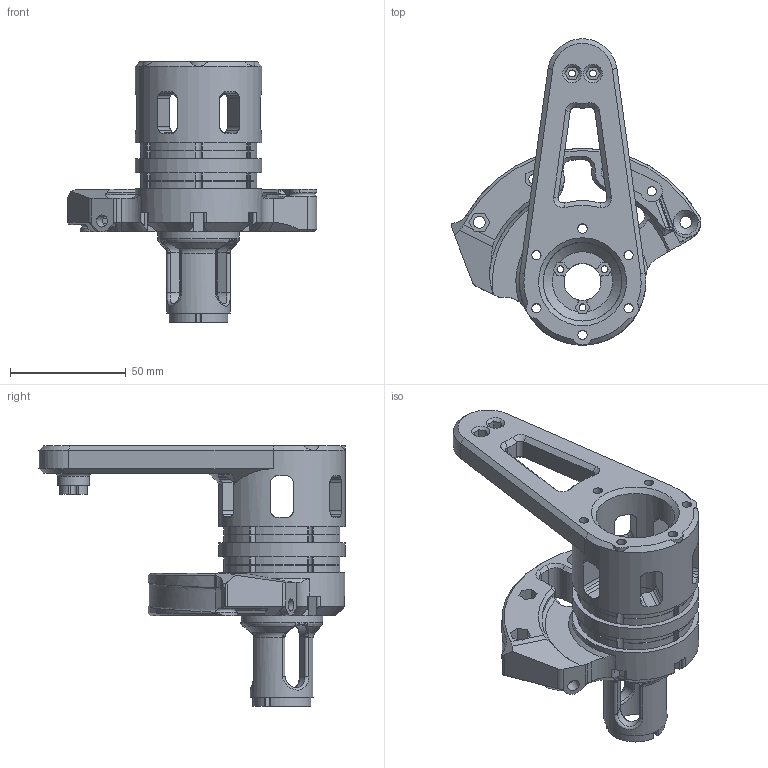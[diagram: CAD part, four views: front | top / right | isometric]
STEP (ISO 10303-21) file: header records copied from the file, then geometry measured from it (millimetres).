
FILE_DESCRIPTION(/* description */ ('CAx-IF Rec.Pracs.---Representation and Presentation of Product Manufacturing Information (PMI)---4.0---2014-10-13','CAx-IF Rec.Pracs.---3D Tessellated Geometry---0.4---2014-09-14','2;1'),/* implementation_level */ '2;1');
FILE_NAME(/* name */ 'qc1_p13_big_reel',/* time_stamp */ '2026-07-26T00:33:10+03:00',/* author */ (''),/* organization */ (''),/* preprocessor_version */ 'ST-DEVELOPER v19.4',/* originating_system */ 'SIEMENS PLM Software NX2306.1700',/* authorisation */ $);
FILE_SCHEMA (('AP242_MANAGED_MODEL_BASED_3D_ENGINEERING_MIM_LF { 1 0 10303 442 3 1 4 }'));
Length unit declared in the file: millimetre
Products named in the file (1): qc1_p13_big_reel
Bounding box: 107.83 x 132.3 x 112.6 mm (x, y, z)
Volume: 172246 mm3; surface area: 63910.4 mm2
Topology: 4 solids, 4 shells, 689 faces, 1988 edges, 1278 vertices
Faces by surface type: cylinder 273, plane 262, bspline 78, cone 62, torus 14
Full cylindrical faces by diameter (mm): 3.01 x8, 4.01 x21, 5.01 x2, 5.2 x1, 13.86 x1, 16 x2, 27.35 x1, 34 x3, 35.35 x1, 54.67 x2, 54.7 x1
Entity records: 24260 total; most frequent: CARTESIAN_POINT 7000, ORIENTED_EDGE 3784, DIRECTION 3382, EDGE_CURVE 1892, AXIS2_PLACEMENT_3D 1283, VERTEX_POINT 1239, LINE 816, VECTOR 816
